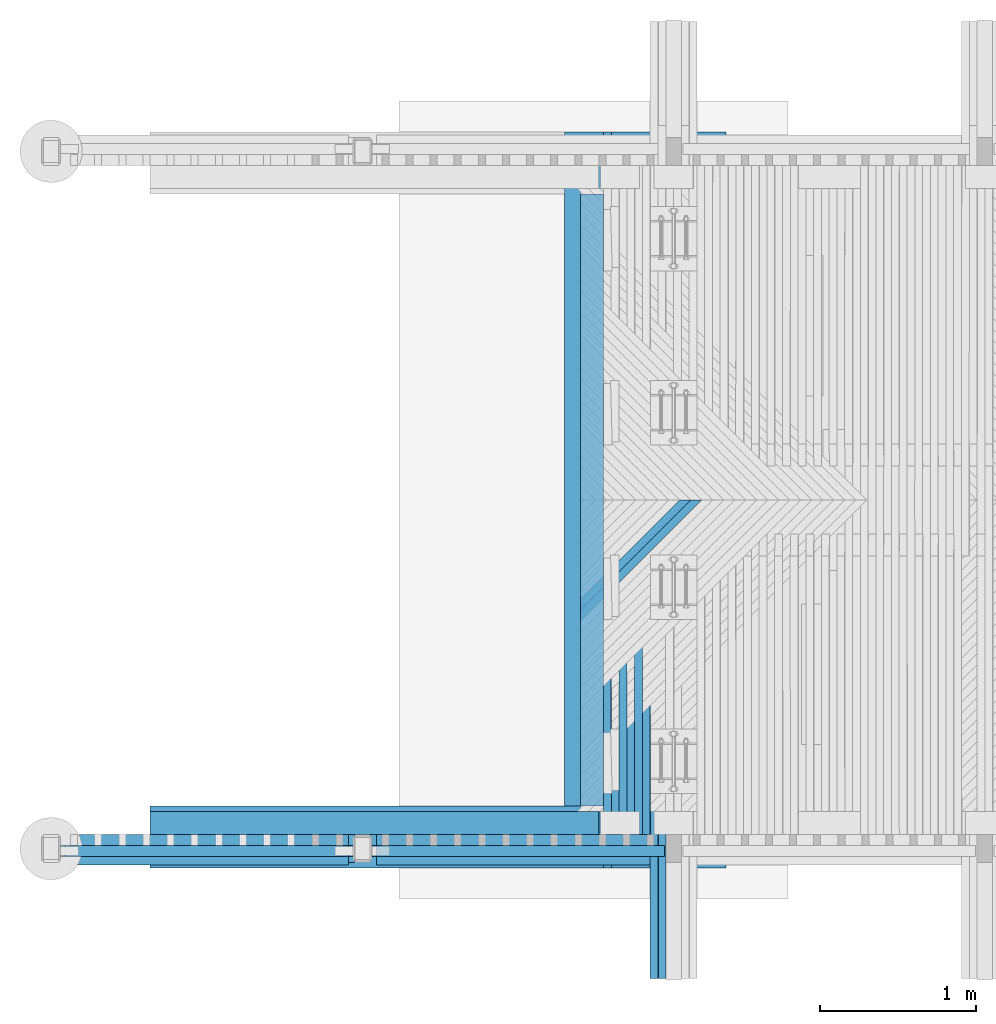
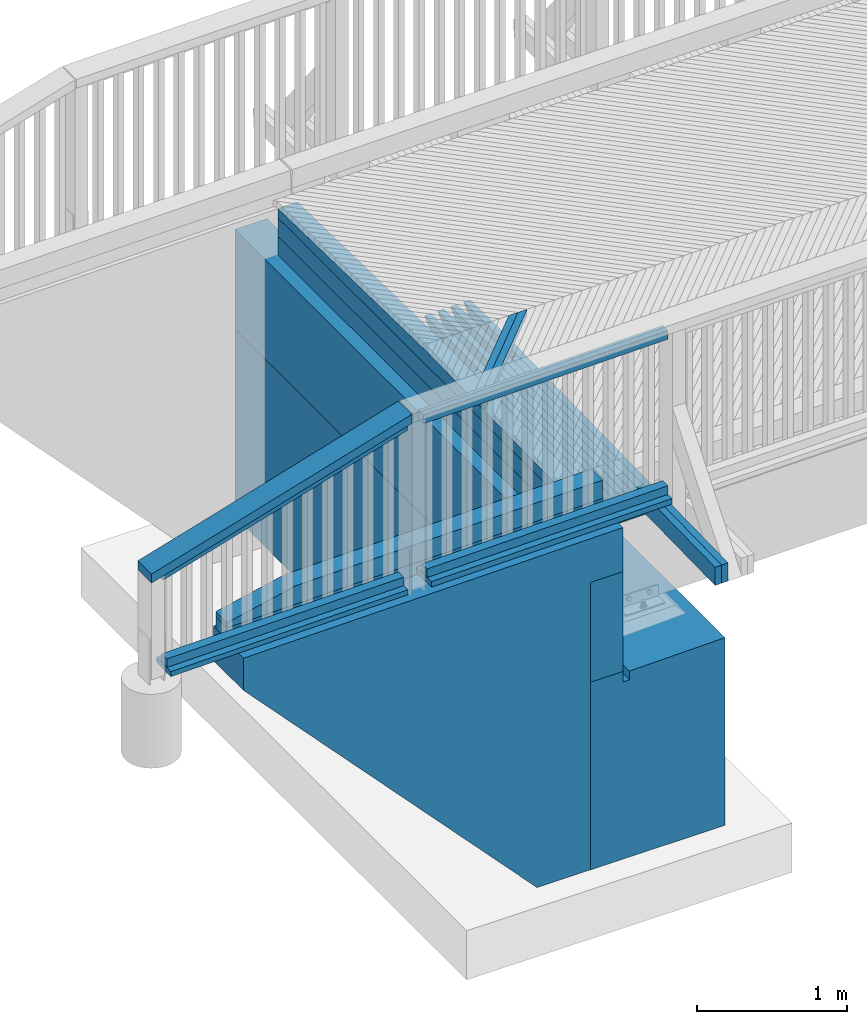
# One storey, part 16 of 53: 25 beams.
"""IFC2X3 building model written with IfcOpenShell, lengths in millimetres."""

from ifc_helpers import new_model, si_unit, frame, origin_with_axes, place, context, subcontext, project, spatial, faceted_brep, material, type_object, element, save


model = new_model("IFC2X3")

# Units and contexts
model_context = context("Model", 3, precision=1e-05, world=origin_with_axes())
body_context = subcontext(model_context, "Body", "Model", "MODEL_VIEW")
ifc_project = project(units=[si_unit("LENGTHUNIT", "METRE", prefix="MILLI"), si_unit("AREAUNIT", "SQUARE_METRE"), si_unit("VOLUMEUNIT", "CUBIC_METRE"), si_unit("MASSUNIT", "GRAM", prefix="KILO"), si_unit("TIMEUNIT", "SECOND"), si_unit("PLANEANGLEUNIT", "RADIAN"), si_unit("SOLIDANGLEUNIT", "STERADIAN"), si_unit("THERMODYNAMICTEMPERATUREUNIT", "DEGREE_CELSIUS"), si_unit("LUMINOUSINTENSITYUNIT", "LUMEN")], contexts=[model_context])

# Site, building, storey
site_placement = place(None, origin_with_axes())
site = spatial("IfcSite", under=ifc_project, at=site_placement, Name="Undefined", CompositionType="ELEMENT")
building_placement = place(site_placement, origin_with_axes())
building = spatial("IfcBuilding", under=site, at=building_placement, Name="Undefined", CompositionType="ELEMENT")
storey_placement = place(building_placement, origin_with_axes())
storey = spatial("IfcBuildingStorey", under=building, at=storey_placement, Name="Undefined", CompositionType="ELEMENT", Elevation=0.0)

# Beams
ifc_material_1 = material(Name="TIMBER/Timber_Undefined")
beam_type_1 = type_object("IfcBeamType", Name="150*100", PredefinedType="NOTDEFINED")
beam_1_placement = place(storey_placement, frame((-3364.03058800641, 40289.9999999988, 3118.6757290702), z_axis=(0.0, -1.0, 0.0), x_axis=(0.999904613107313, 0.0, 0.0138117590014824)))
element("IfcBeam", 1, at=beam_1_placement, inside=storey, type_object=beam_type_1, material=ifc_material_1, Name="TÖRMÄYSJOHDE", ObjectType="150*100", context=body_context, shape_type="Brep", body=[
    faceted_brep([(-3.63797880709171e-12, 50.0, -75.0), (-3.63797880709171e-12, 50.0, 75.0), (2885.27521749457, 50.0, 75.0), (2885.27521749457, 50.0, -75.0), (0.0, -49.9999999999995, 75.0), (2885.27521749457, -49.9999999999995, 75.0), (0.0, -49.9999999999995, -75.0), (2885.27521749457, -49.9999999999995, -75.0)], [[[0, 1, 2, 3]], [[1, 4, 5, 2]], [[4, 6, 7, 5]], [[6, 0, 3, 7]], [[5, 7, 3, 2]], [[6, 4, 1, 0]]]),
])
beam_type_2 = type_object("IfcBeamType", Name="150*150", PredefinedType="NOTDEFINED")
beam_2_placement = place(storey_placement, frame((-3366.03588197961, 40289.9999999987, 3243.66334439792), z_axis=(0.0, -1.0, 0.0), x_axis=(0.999904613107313, 0.0, 0.0138117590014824)))
element("IfcBeam", 2, at=beam_2_placement, inside=storey, type_object=beam_type_2, material=ifc_material_1, Name="TÖRMÄYSJOHDE", ObjectType="150*150", context=body_context, shape_type="Brep", body=[
    faceted_brep([(0.0, -75.0000000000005, 75.0), (0.0, -75.0000000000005, -75.0), (2885.27521749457, -74.9999999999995, -75.0), (2885.27521749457, -74.9999999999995, 75.0), (2885.27521749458, 75.0, -75.0), (2885.27521749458, 75.0, 75.0), (529.511118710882, 75.0, -75.0), (529.511118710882, 75.0, 75.0), (4.54747350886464e-13, -33.1222400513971, 75.0), (4.54747350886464e-13, -33.1222400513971, -75.0)], [[[0, 1, 2, 3]], [[3, 2, 4, 5]], [[5, 4, 6, 7]], [[0, 3, 5, 7, 8]], [[1, 0, 8, 9]], [[4, 2, 1, 9, 6]], [[8, 7, 6, 9]]]),
])
beam_3_placement = place(storey_placement, frame((-525.0, 40399.9992755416, 3109.00000000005), z_axis=(-1.0, 0.0, 0.0), x_axis=(0.0, 1.0, 0.0)))
element("IfcBeam", 3, at=beam_3_placement, inside=storey, type_object=beam_type_2, material=ifc_material_1, Name="BEAM", ObjectType="150*150", context=body_context, shape_type="Brep", body=[
    faceted_brep([(3.63797880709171e-12, 75.0000000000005, -75.0), (3.63797880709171e-12, 75.0000000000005, 75.0), (3930.0, 75.0, 75.0), (3930.0, 75.0, -75.0), (3930.0, -0.55802813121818, 75.0), (3930.0, -3.17681141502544, -75.0), (1965.00070282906, -42.4729688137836, -75.0), (0.0, -3.17678330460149, -75.0), (0.0, -0.558000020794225, 75.0), (1965.00070282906, -39.8541855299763, 75.0)], [[[0, 1, 2, 3]], [[3, 2, 4, 5]], [[0, 3, 5, 6, 7]], [[1, 0, 7, 8]], [[4, 2, 1, 8, 9]], [[5, 4, 9, 6]], [[8, 7, 6, 9]]]),
])
for number, where, z_axis, x_axis, name in (
    (4, (-525.0, 40399.9992755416, 2959.00000000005), (-1.0, 0.0, 0.0), (0.0, 1.0, 0.0), "BEAM"),
    (5, (-525.0, 40399.9992755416, 2809.00000000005), (-1.0, 0.0, 0.0), (0.0, 1.0, 0.0), "BEAM"),
):
    element("IfcBeam", number, at=place(storey_placement, frame(where, z_axis=z_axis, x_axis=x_axis)), inside=storey, type_object=beam_type_2, material=ifc_material_1, Name=name, ObjectType="150*150", context=body_context, shape_type="Brep", body=[
        faceted_brep([(3.63797880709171e-12, 75.0000000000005, -75.0), (3.63797880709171e-12, 75.0000000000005, 75.0), (3930.0, 75.0, 75.0), (3930.0, 75.0, -75.0), (0.0, -75.0000000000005, 75.0), (3930.0, -75.0, 75.0), (0.0, -75.0000000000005, -75.0), (3930.0, -75.0, -75.0)], [[[0, 1, 2, 3]], [[1, 4, 5, 2]], [[4, 6, 7, 5]], [[6, 0, 3, 7]], [[5, 7, 3, 2]], [[6, 4, 1, 0]]]),
    ])
ifc_material_2 = material(Name="CONCRETE/Concrete_Undefined")
beam_type_3 = type_object("IfcBeamType", Name="2800*400", PredefinedType="NOTDEFINED")
beam_4_placement = place(storey_placement, frame((-430.340033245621, 40200.0, 1712.66804762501), z_axis=(-0.0140428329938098, 0.0, 0.999901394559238), x_axis=(-0.999901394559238, 0.0, -0.0140428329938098)))
element("IfcBeam", 6, at=beam_4_placement, inside=storey, type_object=beam_type_3, material=ifc_material_2, Name="SIIPIMUURI", ObjectType="2800*400", context=body_context, shape_type="Brep", body=[
    faceted_brep([(0.280884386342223, 199.999999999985, 1380.0), (3.63797880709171e-12, -200.0, 1400.0), (2915.2874638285, -200.0, 1400.0), (2915.5683481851, 200.0, 1380.0), (270.457242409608, 199.999999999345, -54.8754727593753), (270.457242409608, -200.0, -54.8754727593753), (255.29098277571, -200.0, 1025.01803336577), (255.29098277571, 199.999999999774, 1025.01803336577), (288.066954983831, 200.0, -1308.75182153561), (288.066954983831, -200.0, -1308.75182153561), (697.173583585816, 200.0, -1303.00623892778), (697.173583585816, -200.0, -1303.00623892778), (2919.22031514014, 200.0, 1119.96651154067), (2919.22031514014, -200.0, 1119.96651154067), (5.31563413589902, -200.0, 1021.50732511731), (5.31563413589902, 199.999999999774, 1021.50732511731)], [[[0, 1, 2, 3]], [[4, 5, 6, 7]], [[8, 9, 5, 4]], [[10, 11, 9, 8]], [[12, 13, 11, 10]], [[13, 12, 3, 2]], [[6, 5, 9, 11, 13, 2, 1, 14]], [[7, 6, 14, 15]], [[12, 10, 8, 4, 7, 15, 0, 3]], [[15, 14, 1, 0]]]),
])
beam_type_4 = type_object("IfcBeamType", Name="810*250", PredefinedType="NOTDEFINED")
beam_5_placement = place(storey_placement, frame((-575.0, 40000.0, 2329.0), z_axis=(0.0, 0.0, 1.0), x_axis=(0.0, 1.0, 0.0)))
element("IfcBeam", 7, at=beam_5_placement, inside=storey, type_object=beam_type_4, material=ifc_material_2, Name="OTSAMUURI", ObjectType="810*250", context=body_context, shape_type="Brep", body=[
    faceted_brep([(0.0, 125.0, -405.0), (0.0, 125.0, 405.0), (4730.0, 125.0, 405.0), (4730.0, 125.0, -405.0), (0.0, -125.0, 405.0), (4730.0, -125.0, 405.0), (0.0, -125.0, -405.0), (4730.0, -125.0, -405.0)], [[[0, 1, 2, 3]], [[1, 4, 5, 2]], [[4, 6, 7, 5]], [[6, 0, 3, 7]], [[5, 7, 3, 2]], [[6, 4, 1, 0]]]),
])
beam_type_5 = type_object("IfcBeamType", Name="1524*1035", PredefinedType="NOTDEFINED")
beam_6_placement = place(storey_placement, frame((-182.5, 40000.0, 1162.0), z_axis=(0.0, 0.0, 1.0), x_axis=(0.0, 1.0, 0.0)))
element("IfcBeam", 8, at=beam_6_placement, inside=storey, type_object=beam_type_5, material=ifc_material_2, Name="LAAKERIPALKKI", ObjectType="1524*1035", context=body_context, shape_type="Brep", body=[
    faceted_brep([(4730.0, 267.5, 762.0), (2366.92526672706, 267.5, 762.0), (2367.55223388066, 267.5, 737.442575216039), (4730.0, 267.5, 676.997414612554), (2367.55223388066, 217.5, 737.442575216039), (4730.0, 217.5, 676.997414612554), (4730.0, 217.500000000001, 747.0), (2367.30822656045, 217.5, 747.0), (0.0, 217.5, 676.997414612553), (0.0, 267.5, 676.997414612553), (0.0, 267.5, 762.0), (0.0, 517.5, 762.0), (0.0, 517.5, -762.0), (0.0, -517.5, -762.0), (0.0, -517.5, 762.0), (0.0, 217.5, 747.0), (4730.0, 517.5, -762.0), (4730.0, 517.5, 762.0), (4730.0, -517.5, -762.0), (4730.0, -517.5, 762.0), (2362.69177343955, 217.5, 747.0), (2362.45109111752, 217.5, 737.312339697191), (2362.45109111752, 267.5, 737.312339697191), (2363.07473327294, 267.5, 762.0)], [[[0, 1, 2, 3]], [[3, 2, 4, 5]], [[6, 5, 4, 7]], [[8, 9, 10, 11, 12, 13, 14, 15]], [[16, 12, 11, 17]], [[13, 12, 16, 18]], [[14, 13, 18, 19]], [[20, 15, 14, 19, 6, 7]], [[7, 4, 21, 8, 15, 20]], [[8, 21, 4, 2, 22, 9]], [[23, 10, 9, 22, 2, 1]], [[17, 11, 10, 23, 1, 0]], [[19, 18, 16, 17, 0, 3, 5, 6]]]),
])
beam_type_6 = type_object("IfcBeamType", Name="70*70", PredefinedType="NOTDEFINED")
beam_7_placement = place(storey_placement, frame((-3930.40492440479, 40110.0099547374, 3879.53617466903), z_axis=(0.0, -1.0, 0.0), x_axis=(0.958203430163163, 0.0, 0.286087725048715)))
element("IfcBeam", 9, at=beam_7_placement, inside=storey, type_object=beam_type_6, material=ifc_material_1, Name="BEAM", ObjectType="70*70", context=body_context, shape_type="Brep", body=[
    faceted_brep([(0.436228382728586, 35.0000000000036, -35.0), (0.436228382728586, 35.0000000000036, 35.0), (1962.44131083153, 35.0000000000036, 35.0), (1962.44131083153, 35.0000000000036, -35.0), (-20.4634471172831, -34.9999999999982, 35.0), (1941.54163533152, -34.9999999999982, 35.0), (-20.4634471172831, -34.9999999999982, -35.0), (1941.54163533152, -34.9999999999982, -35.0)], [[[0, 1, 2, 3]], [[1, 4, 5, 2]], [[4, 6, 7, 5]], [[6, 0, 3, 7]], [[5, 7, 3, 2]], [[6, 4, 1, 0]]]),
])
beam_8_placement = place(storey_placement, frame((-3909.4703719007, 40110.0099700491, 3156.34116342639), z_axis=(0.0, -1.0, 0.0), x_axis=(0.999883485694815, 0.0, 0.0152648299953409)))
element("IfcBeam", 10, at=beam_8_placement, inside=storey, type_object=beam_type_6, material=ifc_material_1, Name="BEAM", ObjectType="70*70", context=body_context, shape_type="Brep", body=[
    faceted_brep([(-3.63797880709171e-12, 35.0000000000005, -35.0), (-3.63797880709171e-12, 35.0000000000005, 35.0), (1820.22135781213, 35.0, 35.0), (1820.22135781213, 35.0, -35.0), (-3.63797880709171e-12, -34.9999999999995, 35.0), (1820.22135781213, -34.9999999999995, 35.0), (-3.63797880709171e-12, -34.9999999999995, -35.0), (1820.22135781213, -34.9999999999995, -35.0)], [[[0, 1, 2, 3]], [[1, 4, 5, 2]], [[4, 6, 7, 5]], [[6, 0, 3, 7]], [[5, 7, 3, 2]], [[6, 4, 1, 0]]]),
])
beam_9_placement = place(storey_placement, frame((-1909.4703719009, 40110.0099700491, 3186.87116342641), z_axis=(0.0, -1.0, 0.0), x_axis=(0.999883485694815, 0.0, 0.0152648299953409)))
element("IfcBeam", 11, at=beam_9_placement, inside=storey, type_object=beam_type_6, material=ifc_material_1, Name="BEAM", ObjectType="70*70", context=body_context, shape_type="Brep", body=[
    faceted_brep([(-3.63797880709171e-12, 35.0000000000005, -35.0), (-3.63797880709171e-12, 35.0000000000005, 35.0), (1850.22135781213, 34.9999999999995, 35.0), (1850.22135781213, 34.9999999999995, -35.0), (-3.63797880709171e-12, -34.9999999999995, 35.0), (1850.22135781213, -35.0, 35.0), (-3.63797880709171e-12, -34.9999999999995, -35.0), (1850.22135781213, -35.0, -35.0)], [[[0, 1, 2, 3]], [[1, 4, 5, 2]], [[4, 6, 7, 5]], [[6, 0, 3, 7]], [[5, 7, 3, 2]], [[6, 4, 1, 0]]]),
])
beam_10_placement = place(storey_placement, frame((-1939.46687647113, 40110.0099700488, 4446.41321852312), z_axis=(0.0, -1.0, 0.0), x_axis=(0.999883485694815, 0.0, 0.0152648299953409)))
element("IfcBeam", 12, at=beam_10_placement, inside=storey, type_object=beam_type_6, material=ifc_material_1, Name="BEAM", ObjectType="70*70", context=body_context, shape_type="Brep", body=[
    faceted_brep([(-3.63797880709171e-12, 35.0000000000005, -35.0), (-3.63797880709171e-12, 35.0000000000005, 35.0), (1880.22135781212, 35.0000000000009, 35.0), (1880.22135781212, 35.0000000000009, -35.0), (-3.63797880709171e-12, -34.9999999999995, 35.0), (1880.22135781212, -35.0, 35.0), (-3.63797880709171e-12, -34.9999999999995, -35.0), (1880.22135781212, -35.0, -35.0)], [[[0, 1, 2, 3]], [[1, 4, 5, 2]], [[4, 6, 7, 5]], [[6, 0, 3, 7]], [[5, 7, 3, 2]], [[6, 4, 1, 0]]]),
])
beam_type_7 = type_object("IfcBeamType", Name="195*40", PredefinedType="NOTDEFINED")
beam_11_placement = place(storey_placement, frame((-3909.69934434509, 40117.5099700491, 3101.33941571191), z_axis=(0.0, -1.0, 0.0), x_axis=(0.999883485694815, 0.0, 0.0152648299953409)))
element("IfcBeam", 13, at=beam_11_placement, inside=storey, type_object=beam_type_7, material=ifc_material_1, Name="BEAM", ObjectType="195*40", context=body_context, shape_type="Brep", body=[
    faceted_brep([(0.0, 20.0, -97.5), (0.0, 20.0, 97.5), (1820.22135781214, 20.0, 97.5), (1820.22135781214, 20.0, -97.5), (3.63797880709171e-12, -20.0, 97.5), (1820.22135781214, -20.0, 97.5), (3.63797880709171e-12, -20.0, -97.5), (1820.22135781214, -20.0, -97.5)], [[[0, 1, 2, 3]], [[1, 4, 5, 2]], [[4, 6, 7, 5]], [[6, 0, 3, 7]], [[5, 7, 3, 2]], [[6, 4, 1, 0]]]),
])
beam_type_8 = type_object("IfcBeamType", Name="180*70", PredefinedType="NOTDEFINED")
beam_12_placement = place(storey_placement, frame((-2039.93420243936, 40125.0099640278, 4517.05500293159), z_axis=(0.0, -1.0, 0.0), x_axis=(-0.958243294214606, 0.0, -0.285954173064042)))
element("IfcBeam", 14, at=beam_12_placement, inside=storey, type_object=beam_type_8, material=ifc_material_1, Name="YLÄJOHDE", ObjectType="180*70", context=body_context, shape_type="Brep", body=[
    faceted_brep([(41.6879268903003, 35.0699417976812, -90.0), (41.8028913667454, -34.9299637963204, -90.0), (0.059877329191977, -34.9999487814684, -90.0), (20.9594530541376, 35.0351891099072, -90.0), (41.8028913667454, -34.9299637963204, 90.0), (41.6879268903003, 35.0699417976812, 90.0), (20.9594530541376, 35.0351891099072, 90.0), (0.059877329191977, -34.9999487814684, 90.0), (83.4357358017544, 35.1370779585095, 90.0), (83.4357358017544, 35.1370779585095, -90.0), (83.5459100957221, -34.8628353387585, -90.0), (83.5459100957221, -34.8628353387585, 90.0), (125.288933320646, -34.7985634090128, 90.0), (125.183549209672, 35.2013572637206, 90.0), (125.183549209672, 35.2013572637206, -90.0), (125.288933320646, -34.7985634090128, -90.0), (167.031960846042, -34.7371480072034, -90.0), (167.031960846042, -34.7371480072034, 90.0), (166.931366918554, 35.2627797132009, 90.0), (166.931366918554, 35.2627797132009, -90.0), (208.679188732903, 35.3213453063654, -90.0), (208.774992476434, -34.6785891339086, -90.0), (208.774992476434, -34.6785891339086, 90.0), (208.679188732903, 35.3213453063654, 90.0), (250.427014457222, 35.3770540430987, 90.0), (250.427014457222, 35.3770540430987, -90.0), (250.518028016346, -34.6228867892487, -90.0), (250.518028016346, -34.6228867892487, 90.0), (292.261067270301, -34.57004097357, 90.0), (292.17484389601, 35.4299059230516, 90.0), (292.17484389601, 35.4299059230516, -90.0), (292.261067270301, -34.57004097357, -90.0), (334.004110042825, -34.5200516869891, -90.0), (334.004110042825, -34.5200516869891, 90.0), (333.922676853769, 35.4799009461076, 90.0), (333.922676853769, 35.4799009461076, -90.0), (375.670513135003, 35.527039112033, -90.0), (375.747156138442, -34.4729189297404, -90.0), (375.747156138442, -34.4729189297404, 90.0), (375.670513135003, 35.527039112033, 90.0), (417.418352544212, 35.5713204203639, 90.0), (417.418352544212, 35.5713204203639, -90.0), (417.490205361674, -34.428642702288, -90.0), (417.490205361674, -34.428642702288, 90.0), (459.233257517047, -34.3872230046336, 90.0), (459.166194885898, 35.6127448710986, 90.0), (459.166194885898, 35.6127448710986, -90.0), (459.233257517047, -34.3872230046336, -90.0), (500.976312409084, -34.3486598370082, -90.0), (500.976312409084, -34.3486598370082, 90.0), (500.914039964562, 35.651312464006, 90.0), (500.914039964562, 35.651312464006, -90.0), (542.661887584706, 35.6870231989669, -90.0), (542.71936984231, -34.3129531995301, -90.0), (542.71936984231, -34.3129531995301, 90.0), (542.661887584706, 35.6870231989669, 90.0), (584.409737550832, 35.7198770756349, 90.0), (584.409737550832, 35.7198770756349, -90.0), (584.462429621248, -34.2801030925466, -90.0), (584.462429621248, -34.2801030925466, 90.0), (626.205491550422, -34.2501095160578, 90.0), (626.157589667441, 35.7498740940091, 90.0), (626.157589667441, 35.7498740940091, -90.0), (626.205491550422, -34.2501095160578, -90.0), (667.948555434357, -34.222972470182, -90.0), (667.948555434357, -34.222972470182, 90.0), (667.905443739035, 35.777014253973, 90.0), (667.905443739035, 35.777014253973, -90.0), (709.653299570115, 35.801297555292, -90.0), (709.691621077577, -34.19869195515, -90.0), (709.691621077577, -34.19869195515, 90.0), (709.653299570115, 35.801297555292, 90.0), (751.401156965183, 35.8227239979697, 90.0), (751.401156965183, 35.8227239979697, -90.0), (751.434688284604, -34.1772679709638, -90.0), (751.434688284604, -34.1772679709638, 90.0), (793.177756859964, -34.1587005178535, 90.0), (793.14901572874, 35.8412935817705, 90.0), (793.14901572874, 35.8412935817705, -90.0), (793.177756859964, -34.1587005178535, -90.0), (834.920826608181, -34.1429895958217, -90.0), (834.920826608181, -34.1429895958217, 90.0), (834.896875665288, 35.8570063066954, 90.0), (834.896875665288, 35.8570063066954, -90.0), (876.644736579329, 35.8698621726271, -90.0), (876.663897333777, -34.1301352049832, -90.0), (876.663897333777, -34.1301352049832, 90.0), (876.644736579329, 35.8698621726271, 90.0), (918.392598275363, 35.8798611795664, 90.0), (918.392598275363, 35.8798611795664, -90.0), (918.406968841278, -34.1201373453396, -90.0), (918.406968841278, -34.1201373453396, 90.0), (960.150040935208, -34.1129960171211, 90.0), (960.140460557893, 35.8870033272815, 90.0), (960.140460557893, 35.8870033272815, -90.0), (960.150040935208, -34.1129960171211, -90.0), (1001.89311342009, -34.1087112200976, -90.0), (1001.89311342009, -34.1087112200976, 90.0), (1001.88832323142, 35.8912886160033, 90.0), (1001.88832323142, 35.8912886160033, -90.0), (1043.63618610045, 35.8927170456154, -90.0), (1043.63618610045, -34.1072829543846, -90.0), (1043.63618610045, -34.1072829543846, 90.0), (1043.63618610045, 35.8927170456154, 90.0), (1085.38404896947, 35.8912886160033, 90.0), (1085.38404896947, 35.8912886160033, -90.0), (1085.3792587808, -34.1087112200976, -90.0), (1085.3792587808, -34.1087112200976, 90.0), (1127.12233126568, -34.1129960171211, 90.0), (1127.131911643, 35.8870033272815, 90.0), (1127.131911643, 35.8870033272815, -90.0), (1127.12233126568, -34.1129960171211, -90.0), (1168.86540335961, -34.1201373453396, -90.0), (1168.86540335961, -34.1201373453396, 90.0), (1168.87977392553, 35.8798611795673, 90.0), (1168.87977392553, 35.8798611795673, -90.0), (1210.62763562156, 35.8698621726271, -90.0), (1210.60847486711, -34.1301352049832, -90.0), (1210.60847486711, -34.1301352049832, 90.0), (1210.62763562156, 35.8698621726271, 90.0), (1252.3754965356, 35.8570063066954, 90.0), (1252.3754965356, 35.8570063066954, -90.0), (1252.35154559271, -34.1429895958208, -90.0), (1252.35154559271, -34.1429895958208, 90.0), (1294.09461534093, -34.1587005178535, 90.0), (1294.12335647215, 35.8412935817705, 90.0), (1294.12335647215, 35.8412935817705, -90.0), (1294.09461534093, -34.1587005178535, -90.0), (1335.83768391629, -34.1772679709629, -90.0), (1335.83768391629, -34.1772679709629, 90.0), (1335.87121523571, 35.8227239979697, 90.0), (1335.87121523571, 35.8227239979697, -90.0), (1377.61907263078, 35.8012975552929, -90.0), (1377.58075112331, -34.1986919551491, -90.0), (1377.58075112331, -34.1986919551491, 90.0), (1377.61907263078, 35.8012975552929, 90.0), (1419.36692846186, 35.777014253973, 90.0), (1419.36692846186, 35.777014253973, -90.0), (1419.32381676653, -34.222972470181, -90.0), (1419.32381676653, -34.222972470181, 90.0), (1461.06688065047, -34.2501095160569, 90.0), (1461.11478253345, 35.7498740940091, 90.0), (1461.11478253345, 35.7498740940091, -90.0), (1461.06688065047, -34.2501095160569, -90.0), (1502.80994257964, -34.2801030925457, -90.0), (1502.80994257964, -34.2801030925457, 90.0), (1502.86263465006, 35.7198770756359, 90.0), (1502.86263465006, 35.7198770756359, -90.0), (1544.61048461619, 35.6870231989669, -90.0), (1544.55300235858, -34.3129531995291, -90.0), (1544.55300235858, -34.3129531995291, 90.0), (1544.61048461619, 35.6870231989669, 90.0), (1586.35833223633, 35.6513124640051, 90.0), (1586.35833223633, 35.6513124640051, -90.0), (1586.29605979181, -34.3486598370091, -90.0), (1586.29605979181, -34.3486598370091, 90.0), (1628.03911468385, -34.3872230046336, 90.0), (1628.10617731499, 35.6127448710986, 90.0), (1628.10617731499, 35.6127448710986, -90.0), (1628.03911468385, -34.3872230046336, -90.0), (1669.78216683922, -34.428642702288, -90.0), (1669.78216683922, -34.428642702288, 90.0), (1669.85401965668, 35.5713204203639, 90.0), (1669.85401965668, 35.5713204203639, -90.0), (1711.60185906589, 35.527039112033, -90.0), (1711.52521606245, -34.4729189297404, -90.0), (1711.52521606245, -34.4729189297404, 90.0), (1711.60185906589, 35.527039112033, 90.0), (1753.34969534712, 35.4799009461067, 90.0), (1753.34969534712, 35.4799009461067, -90.0), (1753.26826215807, -34.5200516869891, -90.0), (1753.26826215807, -34.5200516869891, 90.0), (1795.01130493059, -34.5700409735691, 90.0), (1795.09752830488, 35.4299059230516, 90.0), (1795.09752830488, 35.4299059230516, -90.0), (1795.01130493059, -34.5700409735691, -90.0), (1836.75434418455, -34.6228867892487, -90.0), (1836.75434418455, -34.6228867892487, 90.0), (1836.84535774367, 35.3770540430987, 90.0), (1836.84535774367, 35.3770540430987, -90.0), (1878.59318346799, 35.3213453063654, -90.0), (1878.49737972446, -34.6785891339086, -90.0), (1878.49737972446, -34.6785891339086, 90.0), (1878.59318346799, 35.3213453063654, 90.0), (1920.34100528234, 35.2627797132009, 90.0), (1920.34100528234, 35.2627797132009, -90.0), (1920.24041135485, -34.7371480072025, -90.0), (1920.24041135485, -34.7371480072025, 90.0), (1961.98343888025, -34.7985634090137, 90.0), (1962.08882299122, 35.2013572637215, 90.0), (1962.08882299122, 35.2013572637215, -90.0), (1961.98343888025, -34.7985634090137, -90.0), (2003.72646210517, -34.8628353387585, -90.0), (2003.72646210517, -34.8628353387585, 90.0), (2003.83663639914, 35.1370779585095, 90.0), (2003.83663639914, 35.1370779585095, -90.0), (2045.58444531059, 35.0699417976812, -90.0), (2045.46948083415, -34.9299637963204, -90.0), (2045.46948083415, -34.9299637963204, 90.0), (2045.58444531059, 35.0699417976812, 90.0), (2087.33224953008, 34.9999487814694, 90.0), (2087.33224953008, 34.9999487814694, -90.0), (2087.2124948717, -34.9999487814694, -90.0), (2087.2124948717, -34.9999487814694, 90.0), (2108.09074494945, 34.9637252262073, 90.0), (2108.09074494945, 34.9637252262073, -90.0)], [[[0, 1, 2, 3]], [[4, 5, 6, 7]], [[1, 4, 7, 2]], [[6, 3, 2, 7]], [[5, 0, 3, 6]], [[0, 5, 8, 9]], [[1, 0, 9, 10]], [[4, 1, 10, 11]], [[5, 4, 11, 8]], [[8, 11, 12, 13]], [[9, 8, 13, 14]], [[10, 9, 14, 15]], [[11, 10, 15, 12]], [[12, 15, 16, 17]], [[13, 12, 17, 18]], [[14, 13, 18, 19]], [[15, 14, 19, 16]], [[16, 19, 20, 21]], [[17, 16, 21, 22]], [[18, 17, 22, 23]], [[19, 18, 23, 20]], [[20, 23, 24, 25]], [[21, 20, 25, 26]], [[22, 21, 26, 27]], [[23, 22, 27, 24]], [[24, 27, 28, 29]], [[25, 24, 29, 30]], [[26, 25, 30, 31]], [[27, 26, 31, 28]], [[28, 31, 32, 33]], [[29, 28, 33, 34]], [[30, 29, 34, 35]], [[31, 30, 35, 32]], [[32, 35, 36, 37]], [[33, 32, 37, 38]], [[34, 33, 38, 39]], [[35, 34, 39, 36]], [[36, 39, 40, 41]], [[37, 36, 41, 42]], [[38, 37, 42, 43]], [[39, 38, 43, 40]], [[40, 43, 44, 45]], [[41, 40, 45, 46]], [[42, 41, 46, 47]], [[43, 42, 47, 44]], [[44, 47, 48, 49]], [[45, 44, 49, 50]], [[46, 45, 50, 51]], [[47, 46, 51, 48]], [[48, 51, 52, 53]], [[49, 48, 53, 54]], [[50, 49, 54, 55]], [[51, 50, 55, 52]], [[52, 55, 56, 57]], [[53, 52, 57, 58]], [[54, 53, 58, 59]], [[55, 54, 59, 56]], [[56, 59, 60, 61]], [[57, 56, 61, 62]], [[58, 57, 62, 63]], [[59, 58, 63, 60]], [[60, 63, 64, 65]], [[61, 60, 65, 66]], [[62, 61, 66, 67]], [[63, 62, 67, 64]], [[64, 67, 68, 69]], [[65, 64, 69, 70]], [[66, 65, 70, 71]], [[67, 66, 71, 68]], [[68, 71, 72, 73]], [[69, 68, 73, 74]], [[70, 69, 74, 75]], [[71, 70, 75, 72]], [[72, 75, 76, 77]], [[73, 72, 77, 78]], [[74, 73, 78, 79]], [[75, 74, 79, 76]], [[76, 79, 80, 81]], [[77, 76, 81, 82]], [[78, 77, 82, 83]], [[79, 78, 83, 80]], [[80, 83, 84, 85]], [[81, 80, 85, 86]], [[82, 81, 86, 87]], [[83, 82, 87, 84]], [[84, 87, 88, 89]], [[85, 84, 89, 90]], [[86, 85, 90, 91]], [[87, 86, 91, 88]], [[88, 91, 92, 93]], [[89, 88, 93, 94]], [[90, 89, 94, 95]], [[91, 90, 95, 92]], [[92, 95, 96, 97]], [[93, 92, 97, 98]], [[94, 93, 98, 99]], [[95, 94, 99, 96]], [[96, 99, 100, 101]], [[97, 96, 101, 102]], [[98, 97, 102, 103]], [[99, 98, 103, 100]], [[100, 103, 104, 105]], [[101, 100, 105, 106]], [[102, 101, 106, 107]], [[103, 102, 107, 104]], [[104, 107, 108, 109]], [[105, 104, 109, 110]], [[106, 105, 110, 111]], [[107, 106, 111, 108]], [[108, 111, 112, 113]], [[109, 108, 113, 114]], [[110, 109, 114, 115]], [[111, 110, 115, 112]], [[112, 115, 116, 117]], [[113, 112, 117, 118]], [[114, 113, 118, 119]], [[115, 114, 119, 116]], [[116, 119, 120, 121]], [[117, 116, 121, 122]], [[118, 117, 122, 123]], [[119, 118, 123, 120]], [[120, 123, 124, 125]], [[121, 120, 125, 126]], [[122, 121, 126, 127]], [[123, 122, 127, 124]], [[124, 127, 128, 129]], [[125, 124, 129, 130]], [[126, 125, 130, 131]], [[127, 126, 131, 128]], [[128, 131, 132, 133]], [[129, 128, 133, 134]], [[130, 129, 134, 135]], [[131, 130, 135, 132]], [[132, 135, 136, 137]], [[133, 132, 137, 138]], [[134, 133, 138, 139]], [[135, 134, 139, 136]], [[136, 139, 140, 141]], [[137, 136, 141, 142]], [[138, 137, 142, 143]], [[139, 138, 143, 140]], [[140, 143, 144, 145]], [[141, 140, 145, 146]], [[142, 141, 146, 147]], [[143, 142, 147, 144]], [[144, 147, 148, 149]], [[145, 144, 149, 150]], [[146, 145, 150, 151]], [[147, 146, 151, 148]], [[148, 151, 152, 153]], [[149, 148, 153, 154]], [[150, 149, 154, 155]], [[151, 150, 155, 152]], [[152, 155, 156, 157]], [[153, 152, 157, 158]], [[154, 153, 158, 159]], [[155, 154, 159, 156]], [[156, 159, 160, 161]], [[157, 156, 161, 162]], [[158, 157, 162, 163]], [[159, 158, 163, 160]], [[160, 163, 164, 165]], [[161, 160, 165, 166]], [[162, 161, 166, 167]], [[163, 162, 167, 164]], [[164, 167, 168, 169]], [[165, 164, 169, 170]], [[166, 165, 170, 171]], [[167, 166, 171, 168]], [[168, 171, 172, 173]], [[169, 168, 173, 174]], [[170, 169, 174, 175]], [[171, 170, 175, 172]], [[172, 175, 176, 177]], [[173, 172, 177, 178]], [[174, 173, 178, 179]], [[175, 174, 179, 176]], [[176, 179, 180, 181]], [[177, 176, 181, 182]], [[178, 177, 182, 183]], [[179, 178, 183, 180]], [[180, 183, 184, 185]], [[181, 180, 185, 186]], [[182, 181, 186, 187]], [[183, 182, 187, 184]], [[184, 187, 188, 189]], [[185, 184, 189, 190]], [[186, 185, 190, 191]], [[187, 186, 191, 188]], [[188, 191, 192, 193]], [[189, 188, 193, 194]], [[190, 189, 194, 195]], [[191, 190, 195, 192]], [[192, 195, 196, 197]], [[193, 192, 197, 198]], [[194, 193, 198, 199]], [[195, 194, 199, 196]], [[196, 199, 200, 201]], [[197, 196, 201, 202]], [[198, 197, 202, 203]], [[199, 198, 203, 200]], [[200, 203, 204]], [[201, 200, 204, 205]], [[201, 205, 202]], [[204, 203, 202, 205]]]),
])
beam_type_9 = type_object("IfcBeamType", Name="195*45", PredefinedType="NOTDEFINED")
beam_13_placement = place(storey_placement, frame((-1909.66118227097, 40117.5099700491, 3129.36970699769), z_axis=(0.0, -1.0, 0.0), x_axis=(0.999883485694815, 0.0, 0.0152648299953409)))
element("IfcBeam", 15, at=beam_13_placement, inside=storey, type_object=beam_type_9, material=ifc_material_1, Name="BEAM", ObjectType="195*45", context=body_context, shape_type="Brep", body=[
    faceted_brep([(0.0, 22.5, -97.5), (0.0, 22.5, 97.5), (1850.22135781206, 22.5, 97.5), (1850.22135781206, 22.5, -97.5), (0.0, -22.5, 97.5), (1850.22135781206, -22.5, 97.5), (0.0, -22.5, -97.5), (1850.22135781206, -22.5, -97.5)], [[[0, 1, 2, 3]], [[1, 4, 5, 2]], [[4, 6, 7, 5]], [[6, 0, 3, 7]], [[5, 7, 3, 2]], [[6, 4, 1, 0]]]),
])
beam_type_10 = type_object("IfcBeamType", Name="50*50", PredefinedType="NOTDEFINED")
beam_14_placement = place(storey_placement, frame((73.4729104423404, 42364.5001003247, 3183.9450845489), z_axis=(0.70722262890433, -0.706981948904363, -0.0035604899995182), x_axis=(-0.706832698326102, -0.706948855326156, -0.0247154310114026)))
element("IfcBeam", 16, at=beam_14_placement, inside=storey, type_object=beam_type_10, material=ifc_material_1, Name="BEAM", ObjectType="50*50", context=body_context, shape_type="Brep", body=[
    faceted_brep([(23.4806436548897, -25.0, -25.0), (-26.4222658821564, -25.0000000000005, 25.0000000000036), (-25.0086637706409, 24.9999999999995, 24.9999999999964), (24.8942457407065, 25.0, -25.0), (928.319039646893, 25.0000000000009, -24.9999999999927), (927.261060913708, -24.9999999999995, -24.9999999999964), (977.288643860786, -24.9999999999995, 25.0000000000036), (978.34662259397, 25.0, 25.0000000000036)], [[[0, 1, 2, 3]], [[0, 3, 4, 5]], [[1, 0, 5, 6]], [[2, 1, 6, 7]], [[3, 2, 7, 4]], [[6, 5, 4, 7]]]),
])
beam_15_placement = place(storey_placement, frame((144.191069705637, 42364.5001003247, 3184.87198634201), z_axis=(0.707222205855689, -0.706981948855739, -0.00364356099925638), x_axis=(-0.706835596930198, -0.706948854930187, -0.0246324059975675)))
element("IfcBeam", 17, at=beam_15_placement, inside=storey, type_object=beam_type_10, material=ifc_material_1, Name="BEAM", ObjectType="50*50", context=body_context, shape_type="Brep", body=[
    faceted_brep([(23.4806436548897, -25.0, -25.0), (-26.4222658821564, -25.0000000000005, 25.0000000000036), (-25.0086637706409, 24.9999999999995, 24.9999999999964), (24.8942457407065, 25.0, -25.0), (1028.36004453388, 25.0, -24.9999999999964), (1027.310376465, -25.0000000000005, -24.9999999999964), (1077.33772433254, -25.0000000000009, 25.0000000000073), (1078.38739240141, 25.0, 25.0)], [[[0, 1, 2, 3]], [[0, 3, 4, 5]], [[1, 0, 5, 6]], [[2, 1, 6, 7]], [[3, 2, 7, 4]], [[6, 5, 4, 7]]]),
])
beam_type_11 = type_object("IfcBeamType", Name="150*50", PredefinedType="NOTDEFINED")
for number, where, z_axis, x_axis, name in (
    (18, (-424.616337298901, 40216.5046076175, 3034.19173150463), (-0.0139093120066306, -0.0199960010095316, 0.999703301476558), (-0.000278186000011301, 0.999800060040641, 0.0199940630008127), "BEAM"),
    (19, (-324.626337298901, 40216.5046076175, 3035.58173150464), (-0.0139093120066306, -0.0199960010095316, 0.999703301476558), (-0.000278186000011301, 0.999800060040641, 0.0199940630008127), "BEAM"),
    (20, (-224.615754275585, 40216.5046076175, 3036.95660402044), (-0.0137432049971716, -0.0199960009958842, 0.999705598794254), (-0.000274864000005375, 0.999800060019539, 0.0199941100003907), "BEAM"),
):
    element("IfcBeam", number, at=place(storey_placement, frame(where, z_axis=z_axis, x_axis=x_axis)), inside=storey, type_object=beam_type_11, material=ifc_material_1, Name=name, ObjectType="150*50", context=body_context, shape_type="Brep", body=[
        faceted_brep([(1.28420651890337e-08, -24.9999999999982, -74.9999999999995), (-1.28347892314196e-08, -24.9999999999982, 75.0), (-1.28347892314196e-08, 25.0, 75.0), (1.28420651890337e-08, 25.0000000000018, -75.0), (1928.42646353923, -25.0000000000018, -75.0), (1789.96936433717, -25.0000000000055, 74.9999999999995), (1789.96936408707, 24.9999999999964, 75.0000000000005), (1928.42646328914, 24.9999999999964, -74.9999999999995)], [[[0, 1, 2, 3]], [[1, 0, 4, 5]], [[2, 1, 5, 6]], [[3, 2, 6, 7]], [[0, 3, 7, 4]], [[7, 6, 5, 4]]]),
    ])
beam_16_placement = place(storey_placement, frame((-124.359382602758, 39292.7893322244, 3019.84218643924), z_axis=(-0.0135770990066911, -0.019996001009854, 0.999707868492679), x_axis=(-0.00027000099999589, 0.999800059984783, 0.0199941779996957)))
element("IfcBeam", 21, at=beam_16_placement, inside=storey, type_object=beam_type_11, material=ifc_material_1, Name="BEAM", ObjectType="150*50", context=body_context, shape_type="Brep", body=[
    faceted_brep([(1.28420651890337e-08, -24.9999999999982, -74.9999999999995), (-1.28347892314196e-08, -24.9999999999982, 75.0), (-1.28347892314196e-08, 25.0, 75.0), (1.28420651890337e-08, 25.0000000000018, -75.0), (2852.32648139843, -25.0000000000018, -75.0000000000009), (2713.86938248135, -25.0000000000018, 74.9999999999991), (2713.86933800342, 25.0000000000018, 75.0), (2852.32643692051, 24.9999999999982, -75.0000000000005)], [[[0, 1, 2, 3]], [[1, 0, 4, 5]], [[2, 1, 5, 6]], [[3, 2, 6, 7]], [[0, 3, 7, 4]], [[4, 7, 6, 5]]]),
])
for number, where, z_axis, x_axis, name in (
    (22, (-374.621498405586, 40216.5046076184, 3034.88612679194), (-0.0139093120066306, -0.0199960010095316, 0.999703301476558), (-0.000278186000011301, 0.999800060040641, 0.0199940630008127), "BEAM"),
    (23, (-274.611030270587, 40216.5046076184, 3036.26930628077), (-0.0137432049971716, -0.0199960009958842, 0.999705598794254), (-0.000274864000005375, 0.999800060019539, 0.0199941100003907), "BEAM"),
    (24, (-174.600333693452, 40216.5046076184, 3037.6358684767), (-0.0135770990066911, -0.019996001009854, 0.999707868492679), (-0.000271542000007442, 0.999800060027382, 0.0199941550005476), "BEAM"),
):
    element("IfcBeam", number, at=place(storey_placement, frame(where, z_axis=z_axis, x_axis=x_axis)), inside=storey, type_object=beam_type_11, material=ifc_material_1, Name=name, ObjectType="150*50", context=body_context, shape_type="Brep", body=[
        faceted_brep([(1.28420651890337e-08, -24.9999999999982, -74.9999999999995), (-1.28347892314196e-08, -24.9999999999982, 75.0), (-1.28347892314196e-08, 25.0, 75.0), (1.28420651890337e-08, 25.0000000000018, -75.0), (2375.00494422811, 25.0000000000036, -75.0), (2375.0049444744, -24.9999999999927, -74.9999999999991), (2510.5924871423, -24.9999999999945, 60.5875430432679), (2150.42514405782, -24.9999999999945, 75.0), (2150.42515052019, 25.0000000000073, 75.0), (2510.59248715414, 25.0000000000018, 60.5875433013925)], [[[0, 1, 2, 3]], [[0, 3, 4, 5]], [[1, 0, 5, 6, 7]], [[2, 1, 7, 8]], [[4, 3, 2, 8, 9]], [[5, 4, 9, 6]], [[6, 9, 8, 7]]]),
    ])
beam_17_placement = place(storey_placement, frame((-74.3416029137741, 39292.7893322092, 3020.51317063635), z_axis=(-0.0134109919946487, -0.0199960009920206, 0.999710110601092), x_axis=(-0.00026822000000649, 0.999800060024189, 0.0199942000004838)))
element("IfcBeam", 25, at=beam_17_placement, inside=storey, type_object=beam_type_11, material=ifc_material_1, Name="BEAM", ObjectType="150*50", context=body_context, shape_type="Brep", body=[
    faceted_brep([(1.28420651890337e-08, -24.9999999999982, -74.9999999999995), (-1.28347892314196e-08, -24.9999999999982, 75.0), (-1.28347892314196e-08, 25.0, 75.0), (1.28420651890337e-08, 25.0000000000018, -75.0), (3298.90492234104, 25.0, -75.0), (3298.90497884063, -24.9999999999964, -75.0), (3434.49251531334, -24.9999999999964, 60.587536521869), (3074.32503029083, -25.0, 75.0000000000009), (3074.32497546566, 25.0000000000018, 75.0), (3434.49245887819, 25.0, 60.5875365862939)], [[[0, 1, 2, 3]], [[0, 3, 4, 5]], [[1, 0, 5, 6, 7]], [[2, 1, 7, 8]], [[4, 3, 2, 8, 9]], [[5, 4, 9, 6]], [[6, 9, 8, 7]]]),
])

save(model, "model.ifc")
